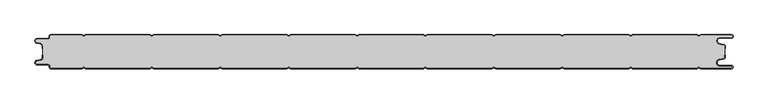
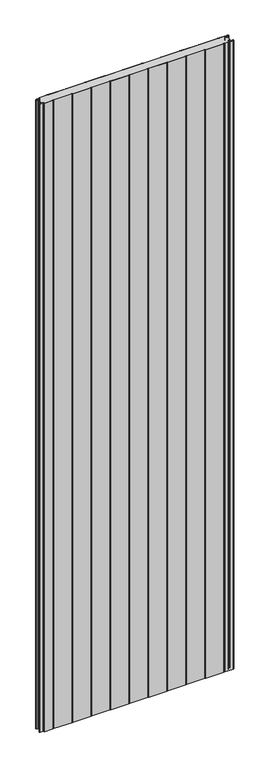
"""IFC4 building model written with IfcOpenShell, lengths in millimetres: plate geometry, PMH_Curtain-Panel_Perfil-Frigorífico : ACH_PMH_Panel-Acústico-Sectorización_50M."""

from ifc_helpers import new_model, si_unit, point, frame_2d, origin, origin_with_axes, place, context, project, spatial, polyline, circle_curve, trimmed, segment, composite_curve, outline, extrude, source, transform, mapped, element, save


def plate_9a600a1f(model_context):
    return source(origin(), model_context, "Body", "SweptSolid", [
        extrude(outline(composite_curve([segment(polyline([(-500.0, 15.878557), (-500.0, 20.0), (-499.2, 20.0), (-499.2, 15.878557)]), True, "CONTINUOUS"), segment(trimmed(circle_curve(frame_2d((-502.0, 15.878557)), 2.8), [point((-499.2, 15.878557))], [point((-501.370137, 13.1503208))], False, "CARTESIAN"), True, "CONTINUOUS"), segment(polyline([(-501.370137, 13.1503208), (-507.529863, 11.728236)]), True, "CONTINUOUS"), segment(trimmed(circle_curve(frame_2d((-506.9, 9.0)), 2.8), [point((-507.529863, 11.728236))], [point((-506.9, 6.2))], True, "CARTESIAN"), True, "CONTINUOUS"), segment(polyline([(-506.9, 6.2), (-491.4, 6.2)]), True, "CONTINUOUS"), segment(trimmed(circle_curve(frame_2d((-491.4, 3.4)), 2.8), [point((-491.4, 6.2))], [point((-488.6, 3.4))], False, "CARTESIAN"), True, "CONTINUOUS"), segment(polyline([(-488.6, 3.4), (-488.6, 2.0)]), True, "CONTINUOUS"), segment(trimmed(circle_curve(frame_2d((-487.4, 2.0)), 1.2), [point((-488.6, 2.0))], [point((-487.4, 0.8))], True, "CARTESIAN"), True, "CONTINUOUS"), segment(polyline([(-487.4, 0.8), (-442.3143588, 0.8), (-439.4, 2.482606), (-436.4856412, 0.8), (-342.3143588, 0.8), (-339.4, 2.482606), (-336.4856412, 0.8), (-242.3143588, 0.8), (-239.4, 2.482606), (-236.4856412, 0.8), (-142.3143588, 0.8), (-139.4, 2.482606), (-136.4856412, 0.8), (-42.3143588, 0.8), (-39.4, 2.482606), (-36.4856412, 0.8), (57.6856412, 0.8), (60.6, 2.482606), (63.5143588, 0.8), (157.6856412, 0.8), (160.6, 2.482606), (163.5143588, 0.8), (257.6856412, 0.8), (260.6, 2.482606), (263.5143588, 0.8), (357.6856412, 0.8), (360.6, 2.482606), (363.5143588, 0.8), (457.6856412, 0.8), (460.6, 2.482606), (463.5143588, 0.8), (508.1, 0.8)]), True, "CONTINUOUS"), segment(trimmed(circle_curve(frame_2d((508.1, 2.5)), 1.7), [point((508.1, 0.8))], [point((508.1, 4.2))], True, "CARTESIAN"), True, "CONTINUOUS"), segment(polyline([(508.1, 4.2), (491.1, 4.2)]), True, "CONTINUOUS"), segment(trimmed(circle_curve(frame_2d((491.1, 9.0)), 4.8), [point((491.1, 4.2))], [point((490.2664884, 13.7270771))], False, "CARTESIAN"), True, "CONTINUOUS"), segment(polyline([(490.2664884, 13.7270771), (496.7125669, 14.8636953)]), True, "CONTINUOUS"), segment(trimmed(circle_curve(frame_2d((496.4, 16.6363492)), 1.8), [point((496.7125669, 14.8636953))], [point((498.2, 16.6363492))], True, "CARTESIAN"), True, "CONTINUOUS"), segment(polyline([(498.2, 16.6363492), (498.2, 20.0), (499.0, 20.0), (499.0, 16.6363492)]), True, "CONTINUOUS"), segment(trimmed(circle_curve(frame_2d((496.4, 16.6363492)), 2.6), [point((499.0, 16.6363492))], [point((496.8514855, 14.0758491))], False, "CARTESIAN"), True, "CONTINUOUS"), segment(polyline([(496.8514855, 14.0758491), (490.405407, 12.939231)]), True, "CONTINUOUS"), segment(trimmed(circle_curve(frame_2d((491.1, 9.0)), 4.0), [point((490.405407, 12.939231))], [point((491.1, 5.0))], True, "CARTESIAN"), True, "CONTINUOUS"), segment(polyline([(491.1, 5.0), (508.1, 5.0)]), True, "CONTINUOUS"), segment(trimmed(circle_curve(frame_2d((508.1, 2.5)), 2.5), [point((508.1, 5.0))], [point((508.1, 0.0))], False, "CARTESIAN"), True, "CONTINUOUS"), segment(polyline([(508.1, 0.0), (463.2999995, 0.0), (460.6, 1.5588455), (457.9000005, 0.0), (363.2999995, 0.0), (360.6, 1.5588455), (357.9000005, 0.0), (263.2999995, 0.0), (260.6, 1.5588455), (257.9000005, 0.0), (163.2999995, 0.0), (160.6, 1.5588455), (157.9000005, 0.0), (63.2999995, 0.0), (60.6, 1.5588455), (57.9000005, 0.0), (-36.7000005, 0.0), (-39.4, 1.5588455), (-42.0999995, 0.0), (-136.7000005, 0.0), (-139.4, 1.5588455), (-142.0999995, 0.0), (-236.7000005, 0.0), (-239.4, 1.5588455), (-242.0999995, 0.0), (-336.7000005, 0.0), (-339.4, 1.5588455), (-342.0999995, 0.0), (-436.7000005, 0.0), (-439.4, 1.5588455), (-442.0999995, 0.0), (-487.4, 0.0)]), True, "CONTINUOUS"), segment(trimmed(circle_curve(frame_2d((-487.4, 2.0)), 2.0), [point((-487.4, 0.0))], [point((-489.4, 2.0))], False, "CARTESIAN"), True, "CONTINUOUS"), segment(polyline([(-489.4, 2.0), (-489.4, 3.4)]), True, "CONTINUOUS"), segment(trimmed(circle_curve(frame_2d((-491.4, 3.4)), 2.0), [point((-489.4, 3.4))], [point((-491.4, 5.4))], True, "CARTESIAN"), True, "CONTINUOUS"), segment(polyline([(-491.4, 5.4), (-506.9, 5.4)]), True, "CONTINUOUS"), segment(trimmed(circle_curve(frame_2d((-506.9, 9.0)), 3.6), [point((-506.9, 5.4))], [point((-507.7098239, 12.5077322))], False, "CARTESIAN"), True, "CONTINUOUS"), segment(polyline([(-507.7098239, 12.5077322), (-501.5500979, 13.929817)]), True, "CONTINUOUS"), segment(trimmed(circle_curve(frame_2d((-502.0, 15.878557)), 2.0), [point((-501.5500979, 13.929817))], [point((-500.0, 15.878557))], True, "CARTESIAN"), True, "CONTINUOUS")], self_intersect=False)), origin_with_axes(), (0.0, 0.0, 1.0), 3500.0),
        extrude(outline(composite_curve([segment(trimmed(circle_curve(frame_2d((-502.0, 34.1214426)), 2.8), [point((-499.2, 34.1214426))], [point((-501.370137, 36.8496788))], True, "CARTESIAN"), True, "CONTINUOUS"), segment(polyline([(-501.370137, 36.8496788), (-507.5298631, 38.2717638)]), True, "CONTINUOUS"), segment(trimmed(circle_curve(frame_2d((-506.9, 41.0)), 2.8), [point((-507.5298631, 38.2717638))], [point((-506.9, 43.8))], False, "CARTESIAN"), True, "CONTINUOUS"), segment(polyline([(-506.9, 43.8), (-491.4000001, 43.8)]), True, "CONTINUOUS"), segment(trimmed(circle_curve(frame_2d((-491.4000001, 46.6)), 2.8), [point((-491.4000001, 43.8))], [point((-488.6000001, 46.6))], True, "CARTESIAN"), True, "CONTINUOUS"), segment(polyline([(-488.6000001, 46.6), (-488.6000001, 48.0)]), True, "CONTINUOUS"), segment(trimmed(circle_curve(frame_2d((-487.4000001, 48.0)), 1.2), [point((-488.6000001, 48.0))], [point((-487.4000001, 49.2))], False, "CARTESIAN"), True, "CONTINUOUS"), segment(polyline([(-487.4000001, 49.2), (-442.3143589, 49.2), (-439.4000001, 47.517394), (-436.4856412, 49.2), (-342.3143589, 49.2), (-339.4000001, 47.517394), (-336.4856412, 49.2), (-242.3143589, 49.2), (-239.4000001, 47.517394), (-236.4856412, 49.2), (-142.3143589, 49.2), (-139.4000001, 47.517394), (-136.4856412, 49.2), (-42.3143589, 49.2), (-39.4000001, 47.517394), (-36.4856412, 49.2), (57.6856411, 49.2), (60.5999999, 47.517394), (63.5143588, 49.2), (157.6856411, 49.2), (160.5999999, 47.517394), (163.5143588, 49.2), (257.6856411, 49.2), (260.5999999, 47.517394), (263.5143588, 49.2), (357.6856411, 49.2), (360.5999999, 47.517394), (363.5143588, 49.2), (457.6856411, 49.2), (460.5999999, 47.517394), (463.5143588, 49.2), (508.0999999, 49.2)]), True, "CONTINUOUS"), segment(trimmed(circle_curve(frame_2d((508.0999999, 47.5)), 1.7), [point((508.0999999, 49.2))], [point((508.0999999, 45.8))], False, "CARTESIAN"), True, "CONTINUOUS"), segment(polyline([(508.0999999, 45.8), (491.0999999, 45.8)]), True, "CONTINUOUS"), segment(trimmed(circle_curve(frame_2d((491.0999999, 41.0)), 4.8), [point((491.0999999, 45.8))], [point((490.2664883, 36.2729229))], True, "CARTESIAN"), True, "CONTINUOUS"), segment(polyline([(490.2664883, 36.2729229), (496.7125668, 35.1363047)]), True, "CONTINUOUS"), segment(trimmed(circle_curve(frame_2d((496.3999999, 33.3636508)), 1.8), [point((496.7125668, 35.1363047))], [point((498.1999999, 33.3636508))], False, "CARTESIAN"), True, "CONTINUOUS"), segment(polyline([(498.1999999, 33.3636508), (498.1999999, 16.6363492)]), True, "CONTINUOUS"), segment(trimmed(circle_curve(frame_2d((496.3999999, 16.6363492)), 1.8), [point((498.1999999, 16.6363492))], [point((496.7125668, 14.8636953))], False, "CARTESIAN"), True, "CONTINUOUS"), segment(polyline([(496.7125668, 14.8636953), (490.2664883, 13.7270771)]), True, "CONTINUOUS"), segment(trimmed(circle_curve(frame_2d((491.0999999, 9.0)), 4.8), [point((490.2664883, 13.7270771))], [point((491.0999999, 4.2))], True, "CARTESIAN"), True, "CONTINUOUS"), segment(polyline([(491.0999999, 4.2), (508.0999999, 4.2)]), True, "CONTINUOUS"), segment(trimmed(circle_curve(frame_2d((508.0999999, 2.5)), 1.7), [point((508.0999999, 4.2))], [point((508.0999999, 0.8))], False, "CARTESIAN"), True, "CONTINUOUS"), segment(polyline([(508.0999999, 0.8), (463.5143588, 0.8), (460.5999999, 2.482606), (457.6856411, 0.8), (363.5143588, 0.8), (360.5999999, 2.482606), (357.6856411, 0.8), (263.5143588, 0.8), (260.5999999, 2.482606), (257.6856411, 0.8), (163.5143588, 0.8), (160.5999999, 2.482606), (157.6856411, 0.8), (63.5143588, 0.8), (60.5999999, 2.482606), (57.6856411, 0.8), (-36.4856412, 0.8), (-39.4000001, 2.482606), (-42.3143589, 0.8), (-136.4856412, 0.8), (-139.4000001, 2.482606), (-142.3143589, 0.8), (-236.4856412, 0.8), (-239.4000001, 2.482606), (-242.3143589, 0.8), (-336.4856412, 0.8), (-339.4000001, 2.482606), (-342.3143589, 0.8), (-436.4856412, 0.8), (-439.4000001, 2.482606), (-442.3143589, 0.8), (-487.4000001, 0.8)]), True, "CONTINUOUS"), segment(trimmed(circle_curve(frame_2d((-487.4000001, 2.0)), 1.2), [point((-487.4000001, 0.8))], [point((-488.6000001, 2.0))], False, "CARTESIAN"), True, "CONTINUOUS"), segment(polyline([(-488.6000001, 2.0), (-488.6000001, 3.4)]), True, "CONTINUOUS"), segment(trimmed(circle_curve(frame_2d((-491.4000001, 3.4)), 2.8), [point((-488.6000001, 3.4))], [point((-491.4000001, 6.2))], True, "CARTESIAN"), True, "CONTINUOUS"), segment(polyline([(-491.4000001, 6.2), (-506.9, 6.2)]), True, "CONTINUOUS"), segment(trimmed(circle_curve(frame_2d((-506.9, 9.0)), 2.8), [point((-506.9, 6.2))], [point((-507.5298631, 11.7282362))], False, "CARTESIAN"), True, "CONTINUOUS"), segment(polyline([(-507.5298631, 11.7282362), (-501.370137, 13.1503212)]), True, "CONTINUOUS"), segment(trimmed(circle_curve(frame_2d((-502.0, 15.8785573)), 2.8), [point((-501.370137, 13.1503212))], [point((-499.2, 15.8785573))], True, "CARTESIAN"), True, "CONTINUOUS"), segment(polyline([(-499.2, 15.8785573), (-499.2, 34.1214426)]), True, "CONTINUOUS")], self_intersect=False)), origin_with_axes(), (0.0, 0.0, 1.0), 3500.0),
        extrude(outline(composite_curve([segment(trimmed(circle_curve(frame_2d((-502.0, 34.121443)), 2.0), [point((-500.0, 34.121443))], [point((-501.5500978, 36.0701831))], True, "CARTESIAN"), True, "CONTINUOUS"), segment(polyline([(-501.5500978, 36.0701831), (-507.7098239, 37.492268)]), True, "CONTINUOUS"), segment(trimmed(circle_curve(frame_2d((-506.9, 41.0)), 3.6), [point((-507.7098239, 37.492268))], [point((-506.9, 44.6))], False, "CARTESIAN"), True, "CONTINUOUS"), segment(polyline([(-506.9, 44.6), (-491.4, 44.6)]), True, "CONTINUOUS"), segment(trimmed(circle_curve(frame_2d((-491.4, 46.6)), 2.0), [point((-491.4, 44.6))], [point((-489.4, 46.6))], True, "CARTESIAN"), True, "CONTINUOUS"), segment(polyline([(-489.4, 46.6), (-489.4, 48.0)]), True, "CONTINUOUS"), segment(trimmed(circle_curve(frame_2d((-487.4, 48.0)), 2.0), [point((-489.4, 48.0))], [point((-487.4, 50.0))], False, "CARTESIAN"), True, "CONTINUOUS"), segment(polyline([(-487.4, 50.0), (-442.0999995, 50.0), (-439.4, 48.4411545), (-436.7000005, 50.0), (-342.0999995, 50.0), (-339.4, 48.4411545), (-336.7000005, 50.0), (-242.0999995, 50.0), (-239.4, 48.4411545), (-236.7000005, 50.0), (-142.0999995, 50.0), (-139.4, 48.4411545), (-136.7000005, 50.0), (-42.0999995, 50.0), (-39.4, 48.4411545), (-36.7000005, 50.0), (57.9000005, 50.0), (60.6, 48.4411545), (63.2999995, 50.0), (157.9000005, 50.0), (160.6, 48.4411545), (163.2999995, 50.0), (257.9000005, 50.0), (260.6, 48.4411545), (263.2999995, 50.0), (357.9000005, 50.0), (360.6, 48.4411545), (363.2999995, 50.0), (457.9000005, 50.0), (460.6, 48.4411545), (463.2999995, 50.0), (508.1, 50.0)]), True, "CONTINUOUS"), segment(trimmed(circle_curve(frame_2d((508.1, 47.5)), 2.5), [point((508.1, 50.0))], [point((508.1, 45.0))], False, "CARTESIAN"), True, "CONTINUOUS"), segment(polyline([(508.1, 45.0), (491.1, 45.0)]), True, "CONTINUOUS"), segment(trimmed(circle_curve(frame_2d((491.1, 41.0)), 4.0), [point((491.1, 45.0))], [point((490.405407, 37.060769))], True, "CARTESIAN"), True, "CONTINUOUS"), segment(polyline([(490.405407, 37.060769), (496.8514855, 35.9241509)]), True, "CONTINUOUS"), segment(trimmed(circle_curve(frame_2d((496.4, 33.3636508)), 2.6), [point((496.8514855, 35.9241509))], [point((499.0, 33.3636508))], False, "CARTESIAN"), True, "CONTINUOUS"), segment(polyline([(499.0, 33.3636508), (499.0, 30.0), (498.2, 30.0), (498.2, 33.3636508)]), True, "CONTINUOUS"), segment(trimmed(circle_curve(frame_2d((496.4, 33.3636508)), 1.8), [point((498.2, 33.3636508))], [point((496.7125669, 35.1363047))], True, "CARTESIAN"), True, "CONTINUOUS"), segment(polyline([(496.7125669, 35.1363047), (490.2664884, 36.2729228)]), True, "CONTINUOUS"), segment(trimmed(circle_curve(frame_2d((491.1, 41.0)), 4.8), [point((490.2664884, 36.2729228))], [point((491.1, 45.8))], False, "CARTESIAN"), True, "CONTINUOUS"), segment(polyline([(491.1, 45.8), (508.1, 45.8)]), True, "CONTINUOUS"), segment(trimmed(circle_curve(frame_2d((508.1, 47.5)), 1.7), [point((508.1, 45.8))], [point((508.1, 49.2))], True, "CARTESIAN"), True, "CONTINUOUS"), segment(polyline([(508.1, 49.2), (463.5143588, 49.2), (460.6, 47.517394), (457.6856412, 49.2), (363.5143588, 49.2), (360.6, 47.517394), (357.6856412, 49.2), (263.5143588, 49.2), (260.6, 47.517394), (257.6856412, 49.2), (163.5143588, 49.2), (160.6, 47.517394), (157.6856412, 49.2), (63.5143588, 49.2), (60.6, 47.517394), (57.6856412, 49.2), (-36.4856412, 49.2), (-39.4, 47.517394), (-42.3143588, 49.2), (-136.4856412, 49.2), (-139.4, 47.517394), (-142.3143588, 49.2), (-236.4856412, 49.2), (-239.4, 47.517394), (-242.3143588, 49.2), (-336.4856412, 49.2), (-339.4, 47.517394), (-342.3143588, 49.2), (-436.4856412, 49.2), (-439.4, 47.517394), (-442.3143588, 49.2), (-487.4, 49.2)]), True, "CONTINUOUS"), segment(trimmed(circle_curve(frame_2d((-487.4, 48.0)), 1.2), [point((-487.4, 49.2))], [point((-488.6, 48.0))], True, "CARTESIAN"), True, "CONTINUOUS"), segment(polyline([(-488.6, 48.0), (-488.6, 46.6)]), True, "CONTINUOUS"), segment(trimmed(circle_curve(frame_2d((-491.4, 46.6)), 2.8), [point((-488.6, 46.6))], [point((-491.4, 43.8))], False, "CARTESIAN"), True, "CONTINUOUS"), segment(polyline([(-491.4, 43.8), (-506.9, 43.8)]), True, "CONTINUOUS"), segment(trimmed(circle_curve(frame_2d((-506.9, 41.0)), 2.8), [point((-506.9, 43.8))], [point((-507.529863, 38.2717638))], True, "CARTESIAN"), True, "CONTINUOUS"), segment(polyline([(-507.529863, 38.2717638), (-501.370137, 36.849679)]), True, "CONTINUOUS"), segment(trimmed(circle_curve(frame_2d((-502.0, 34.121443)), 2.8), [point((-501.370137, 36.849679))], [point((-499.2, 34.121443))], False, "CARTESIAN"), True, "CONTINUOUS"), segment(polyline([(-499.2, 34.121443), (-499.2, 30.0), (-500.0, 30.0), (-500.0, 34.121443)]), True, "CONTINUOUS")], self_intersect=False)), origin_with_axes(), (0.0, 0.0, 1.0), 3500.0),
    ])


if __name__ == "__main__":
    model = new_model("IFC4")
    model_context = context("Model", 3, world=origin())
    ifc_project = project(units=[si_unit("LENGTHUNIT", "METRE", prefix="MILLI")], contexts=[model_context])
    site = spatial("IfcSite", under=ifc_project)
    building = spatial("IfcBuilding", under=site)
    placement = place(None, origin())
    plate_shape = plate_9a600a1f(model_context)
    element("IfcPlate", 1, ObjectType="PMH_Curtain-Panel_Perfil-Frigorífico : ACH_PMH_Panel-Acústico-Sectorización_50M", at=placement, inside=building, context=model_context, shape_type="MappedRepresentation", body=[
        mapped(plate_shape, transform((0.0, 0.0, 0.0), x_axis=(1.0, 0.0, 0.0), y_axis=(0.0, 1.0, 0.0), z_axis=(0.0, 0.0, 1.0))),
    ])
    save(model, "model.ifc")
